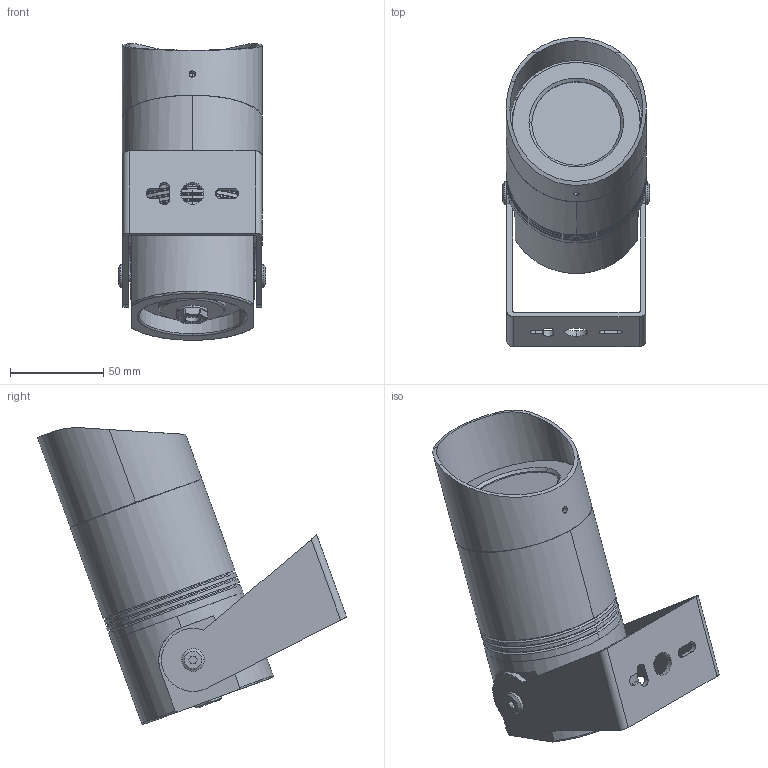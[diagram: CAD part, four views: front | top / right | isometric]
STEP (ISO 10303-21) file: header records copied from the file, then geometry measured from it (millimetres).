
FILE_DESCRIPTION((''),'2;1');
FILE_NAME('B3AEX0169_ASM','2026-03-06T14:12:27',('C164'),(''),'CREO PARAMETRIC BY PTC INC, 2021063','CREO PARAMETRIC BY PTC INC, 2021063','');
FILE_SCHEMA(('CONFIG_CONTROL_DESIGN'));
Length unit declared in the file: millimetre
Products named in the file (29): B3AB_80__O______L_10_15_1; B3AB_80_________L_9_1_1; 1_9_1_1; ADMI116CD2A7R55F_1_9_1_1; ADMI116CD2A7R55F_20_9_1_1; ADMI116CD2A7R55F_ASM_9_ASM_1_AS_ASM; B67__ASM_10_ASM_1_ASM_1_ASM; B3AB_80__O_________B___N_9_1_1; 80-XKM_ASM_9_ASM_1_ASM_1_ASM; 3AE-DY_3_2_1; 3AE-GDP_4_2_1; 3AD-FPM_4_1_1; _7E_ASM_9_ASM_1_1; 3AE-HOUGAI-0618_1_1; 3AE-CHIKUAI_1_1; SCREW-M12_1_18_2_1_1; XINGUIJIAO_14_2_1_1; GUIJIAOSAI-005_8_2_1_1; LUOMUZUJIAN_ASM_14_ASM_2_ASM_1__ASM; M14__ASM_2_ASM_1_ASM_1_ASM; 3AE-ZHIJIA-0731_1_1; DB-M6-8_1_1; 3AE-KDP_1_1; 230407A_4_1; B3AB_80____A_____20_ASM_28_ASM__ASM; 3AE_ASM_6_ASM_1_ASM; 3AE_ASM_ASM_1_ASM; B3AB_80__B___N_10_1; B3AEX0169_ASM
Assembly tree (30 placements, depth 7):
  B3AEX0169_ASM
    3AE_ASM_ASM_1_ASM
      3AE_ASM_6_ASM_1_ASM
        B3AB_80____A_____20_ASM_28_ASM__ASM
          B3AB_80__O______L_10_15_1
          B3AB_80_________L_9_1_1
          B67__ASM_10_ASM_1_ASM_1_ASM
            ADMI116CD2A7R55F_ASM_9_ASM_1_AS_ASM
              1_9_1_1
              ADMI116CD2A7R55F_1_9_1_1
              ADMI116CD2A7R55F_20_9_1_1
          80-XKM_ASM_9_ASM_1_ASM_1_ASM
            B3AB_80__O_________B___N_9_1_1
          3AE-DY_3_2_1
          3AE-GDP_4_2_1
          3AD-FPM_4_1_1
          _7E_ASM_9_ASM_1_1
          3AE-HOUGAI-0618_1_1
          3AE-CHIKUAI_1_1  x2
          M14__ASM_2_ASM_1_ASM_1_ASM
            LUOMUZUJIAN_ASM_14_ASM_2_ASM_1__ASM
              SCREW-M12_1_18_2_1_1
              XINGUIJIAO_14_2_1_1
              GUIJIAOSAI-005_8_2_1_1
          3AE-ZHIJIA-0731_1_1
          DB-M6-8_1_1  x2
          3AE-KDP_1_1
          230407A_4_1
    B3AB_80__B___N_10_1
Bounding box: 78.94 x 165.36 x 158.76 mm (x, y, z)
Volume: 378759.3 mm3; surface area: 185796.2 mm2
Topology: 21 solids, 21 shells, 2382 faces, 6524 edges, 4268 vertices
Faces by surface type: plane 1144, extrusion 406, cylinder 349, cone 223, bspline 108, torus 98, sphere 52, revolution 2
Entity records: 80853 total; most frequent: CARTESIAN_POINT 26076, ORIENTED_EDGE 11984, DIRECTION 10037, EDGE_CURVE 5992, VERTEX_POINT 3958, VECTOR 3515, AXIS2_PLACEMENT_3D 3260, LINE 3109
